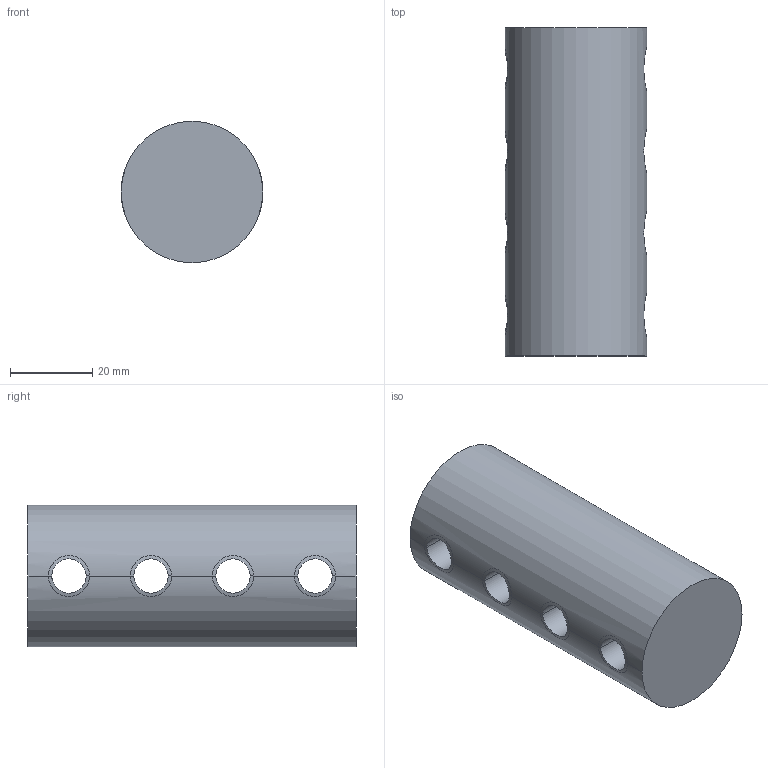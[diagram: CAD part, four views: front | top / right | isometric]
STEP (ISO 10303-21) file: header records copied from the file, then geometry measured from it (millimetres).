
FILE_DESCRIPTION(/* description */ ('VariCAD 2010-3.03 AP-214'),/* implementation_level */ '2;1');
FILE_NAME(/* name */ '0353-22-30',/* time_stamp */ '2011-06-29T10:18:19-06:00',/* author */ (''),/* organization */ (''),/* preprocessor_version */ 'ST-DEVELOPER v12',/* originating_system */ 'VariCAD 2010-3.03; kernel version (20100102)',/* authorisation */ '');
FILE_SCHEMA (('AUTOMOTIVE_DESIGN'));
Length unit declared in the file: millimetre
Products named in the file (1): Part
Bounding box: 34.5 x 80 x 34.5 mm (x, y, z)
Volume: 67178.1 mm3; surface area: 22045.2 mm2
Topology: 5 solids, 5 shells, 68 faces, 166 edges, 92 vertices
Faces by surface type: cylinder 42, cone 24, plane 2
Entity records: 2994 total; most frequent: CARTESIAN_POINT 948, ORIENTED_EDGE 332, DIRECTION 294, EDGE_CURVE 166, AXIS2_PLACEMENT_3D 118, VERTEX_POINT 92, PRESENTATION_STYLE_ASSIGNMENT 73, SURFACE_STYLE_USAGE 73
